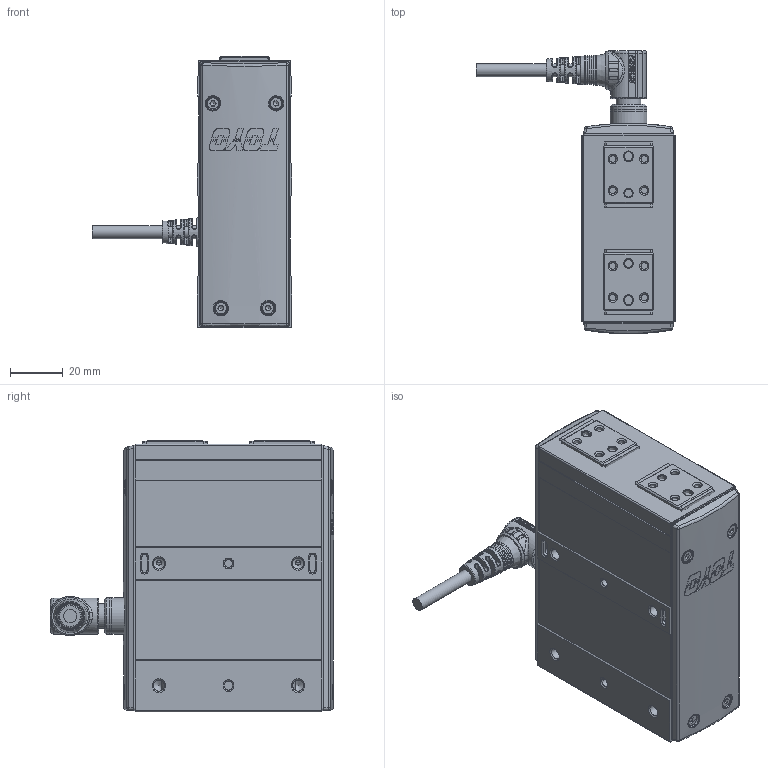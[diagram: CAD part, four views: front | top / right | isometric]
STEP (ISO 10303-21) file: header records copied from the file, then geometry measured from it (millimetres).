
FILE_DESCRIPTION(/* description */ ('STEP AP214'),/* implementation_level */ '2;1');
FILE_NAME(/* name */ 'D:\2025.02.25 帶電匯整給泊舟\CHZ2-S14-WL.stp',/* time_stamp */ '2025-02-26T10:46:20+08:00',/* author */ ('T10033'),/* organization */ (''),/* preprocessor_version */ 'ST-DEVELOPER v18.1',/* originating_system */ 'Autodesk Inventor 2020',/* authorisation */ '');
FILE_SCHEMA (('CONFIG_CONTROL_DESIGN'));
Products named in the file (5): CHZ2-S14; 慶陞金屬頭; 62TW34T6SE34_Shrinkwrap_1; 6T3Y7E45_Shrinkwrap_1; M12-14PIN 線端90度接頭-05中繼線
Assembly tree (5 placements, depth 2):
  CHZ2-S14
    慶陞金屬頭
    62TW34T6SE34_Shrinkwrap_1
    6T3Y7E45_Shrinkwrap_1  x2
    M12-14PIN 線端90度接頭-05中繼線
Bounding box: 76 x 107.8 x 103.5 mm (x, y, z)
Volume: 287094 mm3; surface area: 60298.7 mm2
Topology: 37 solids, 41 shells, 2696 faces, 7276 edges, 4769 vertices
Faces by surface type: plane 1526, cylinder 506, cone 378, bspline 157, torus 109, sphere 20
Full cylindrical faces by diameter (mm): 0.6 x14, 0.65 x14, 1 x18, 2.05 x16, 2.5 x20, 2.7 x8, 3 x5, 4.2 x12, 4.5 x8, 4.7 x4, 5 x1, 5.5 x2, 6.8 x2, 8 x1, 8.9 x1, 9.5 x2, 9.6 x1, 10.5 x2, 10.9 x1, 11 x2, 11.2 x1, 11.25 x1, 12 x1, 13 x1, 13.8 x1, 14 x2, 14.4 x1
Entity records: 114012 total; most frequent: CARTESIAN_POINT 46679, DIRECTION 13626, ORIENTED_EDGE 13604, EDGE_CURVE 6810, AXIS2_PLACEMENT_3D 5025, VERTEX_POINT 4492, LINE 3576, VECTOR 3576
